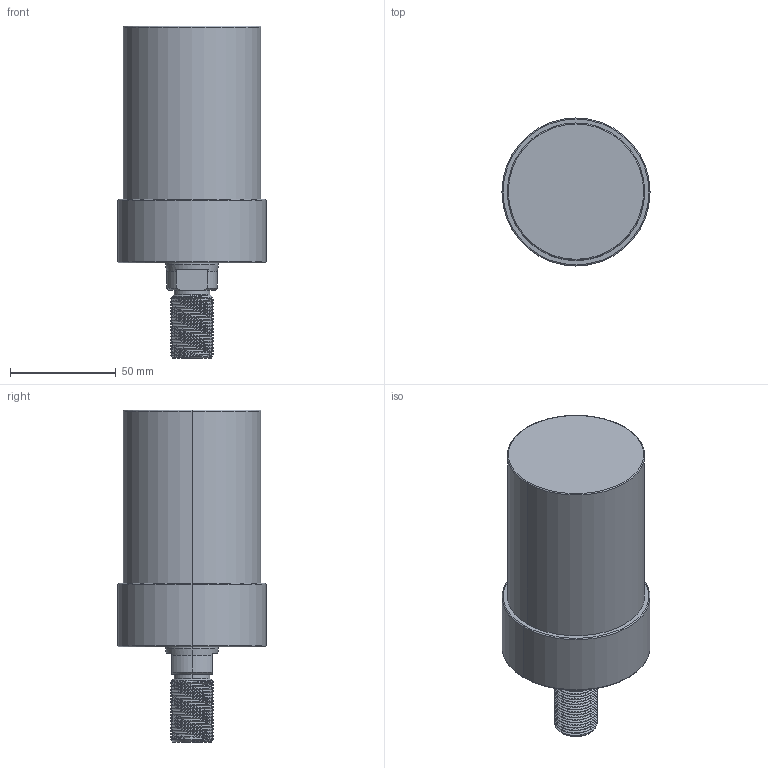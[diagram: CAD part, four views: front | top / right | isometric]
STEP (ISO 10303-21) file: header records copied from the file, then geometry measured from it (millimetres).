
FILE_DESCRIPTION (( 'STEP AP203' ), '1' );
FILE_NAME ('CLLU-065GT-065.STEP', '2020-01-16T01:19:04', ( '' ), ( '' ), 'SwSTEP 2.0', 'SolidWorks 2015', '' );
FILE_SCHEMA (( 'CONFIG_CONTROL_DESIGN' ));
Length unit declared in the file: millimetre
Products named in the file (1): CLLU-065GT-065
Bounding box: 70 x 70 x 157 mm (x, y, z)
Volume: 400511.7 mm3; surface area: 36238.7 mm2
Topology: 1 solids, 1 shells, 107 faces, 270 edges, 166 vertices
Faces by surface type: cylinder 61, cone 26, plane 12, torus 6, bspline 2
Entity records: 5335 total; most frequent: CARTESIAN_POINT 2934, ORIENTED_EDGE 524, DIRECTION 461, EDGE_CURVE 262, AXIS2_PLACEMENT_3D 184, VERTEX_POINT 166, EDGE_LOOP 116, FACE_OUTER_BOUND 107
